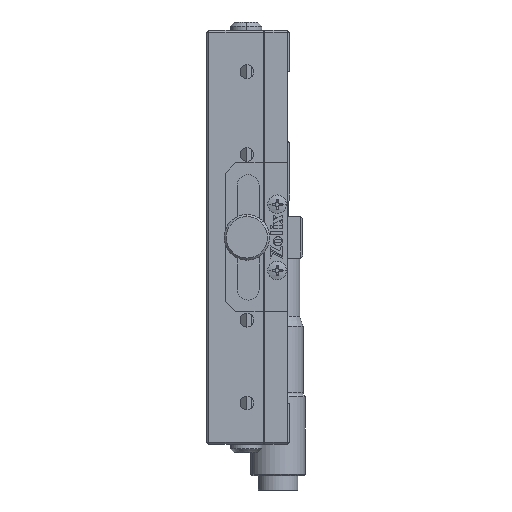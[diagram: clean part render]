
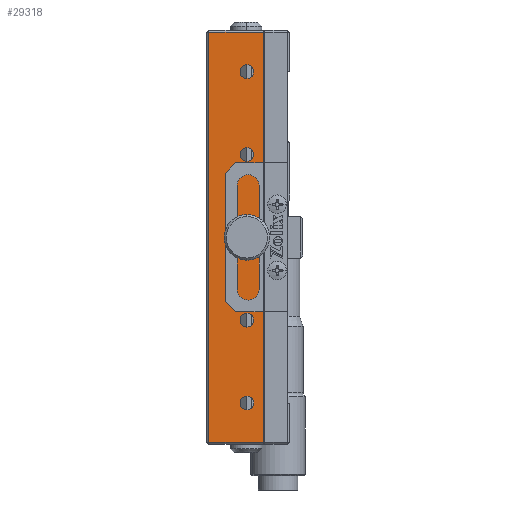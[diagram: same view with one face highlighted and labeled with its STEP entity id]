
A CAD part, left-side view. The second image highlights one B-rep face of the part: STEP entity #29318.
In plain terms, the highlighted planar face has unit normal (-1, 0, 0).
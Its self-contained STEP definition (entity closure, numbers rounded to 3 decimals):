
#177 = CARTESIAN_POINT ( 'NONE',  ( -52.563, -2.575, 94.15 ) ) ;
#365 = DIRECTION ( 'NONE',  ( -1., 0., 0. ) ) ;
#630 = VERTEX_POINT ( 'NONE', #2525 ) ;
#767 = ORIENTED_EDGE ( 'NONE', *, *, #21845, .F. ) ;
#941 = FACE_BOUND ( 'NONE', #3390, .T. ) ;
#952 = EDGE_LOOP ( 'NONE', ( #4012, #767 ) ) ;
#1269 = EDGE_CURVE ( 'NONE', #28478, #26473, #5017, .T. ) ;
#1315 = CARTESIAN_POINT ( 'NONE',  ( -52.563, -6.575, 62.5 ) ) ;
#1322 = ORIENTED_EDGE ( 'NONE', *, *, #7022, .F. ) ;
#1646 = CARTESIAN_POINT ( 'NONE',  ( -52.563, -2.575, 110.4 ) ) ;
#1694 = FACE_BOUND ( 'NONE', #22292, .T. ) ;
#1803 = EDGE_LOOP ( 'NONE', ( #1322, #6968 ) ) ;
#1805 = VERTEX_POINT ( 'NONE', #1646 ) ;
#1939 = AXIS2_PLACEMENT_3D ( 'NONE', #12030, #1977, #30700 ) ;
#1977 = DIRECTION ( 'NONE',  ( -1., 0., 0. ) ) ;
#2063 = CARTESIAN_POINT ( 'NONE',  ( -52.563, -2.575, 150.85 ) ) ;
#2207 = CARTESIAN_POINT ( 'NONE',  ( -52.563, -6.575, 62.5 ) ) ;
#2261 = VERTEX_POINT ( 'NONE', #24604 ) ;
#2367 = ORIENTED_EDGE ( 'NONE', *, *, #18878, .F. ) ;
#2525 = CARTESIAN_POINT ( 'NONE',  ( -52.563, -2.575, 70.85 ) ) ;
#2660 = CARTESIAN_POINT ( 'NONE',  ( -52.563, -2.575, 152.5 ) ) ;
#2992 = DIRECTION ( 'NONE',  ( 0., 0., 1. ) ) ;
#3003 = CARTESIAN_POINT ( 'NONE',  ( -52.563, -2.575, 72.5 ) ) ;
#3221 = CIRCLE ( 'NONE', #8793, 1.65 ) ;
#3352 = CIRCLE ( 'NONE', #22217, 2.1 ) ;
#3390 = EDGE_LOOP ( 'NONE', ( #6683, #27638 ) ) ;
#3587 = CIRCLE ( 'NONE', #7747, 1.65 ) ;
#4012 = ORIENTED_EDGE ( 'NONE', *, *, #23345, .F. ) ;
#4164 = CIRCLE ( 'NONE', #6880, 1.65 ) ;
#4175 = ORIENTED_EDGE ( 'NONE', *, *, #15323, .T. ) ;
#4199 = DIRECTION ( 'NONE',  ( 0., 0., 1. ) ) ;
#4742 = CIRCLE ( 'NONE', #1939, 1.65 ) ;
#5017 = LINE ( 'NONE', #2207, #23290 ) ;
#5526 = DIRECTION ( 'NONE',  ( -1., 0., 0. ) ) ;
#5597 = LINE ( 'NONE', #19995, #30190 ) ;
#5791 = DIRECTION ( 'NONE',  ( 0., 0., 1. ) ) ;
#5893 = DIRECTION ( 'NONE',  ( -1., 0., 0. ) ) ;
#6461 = LINE ( 'NONE', #25853, #22565 ) ;
#6591 = DIRECTION ( 'NONE',  ( 0., 0., 1. ) ) ;
#6606 = FACE_OUTER_BOUND ( 'NONE', #10633, .T. ) ;
#6683 = ORIENTED_EDGE ( 'NONE', *, *, #29424, .F. ) ;
#6872 = VERTEX_POINT ( 'NONE', #21157 ) ;
#6880 = AXIS2_PLACEMENT_3D ( 'NONE', #2660, #20105, #29768 ) ;
#6968 = ORIENTED_EDGE ( 'NONE', *, *, #28943, .F. ) ;
#7022 = EDGE_CURVE ( 'NONE', #20355, #7171, #7930, .T. ) ;
#7171 = VERTEX_POINT ( 'NONE', #27259 ) ;
#7284 = VERTEX_POINT ( 'NONE', #2063 ) ;
#7747 = AXIS2_PLACEMENT_3D ( 'NONE', #10676, #5893, #5791 ) ;
#7930 = CIRCLE ( 'NONE', #22177, 1.65 ) ;
#7941 = DIRECTION ( 'NONE',  ( -1., 0., 0. ) ) ;
#8487 = CIRCLE ( 'NONE', #25793, 2.1 ) ;
#8793 = AXIS2_PLACEMENT_3D ( 'NONE', #20872, #28220, #6591 ) ;
#9817 = CARTESIAN_POINT ( 'NONE',  ( -52.563, -2.575, 112.5 ) ) ;
#10133 = DIRECTION ( 'NONE',  ( 0., 0., 1. ) ) ;
#10462 = EDGE_CURVE ( 'NONE', #7284, #2261, #4164, .T. ) ;
#10633 = EDGE_LOOP ( 'NONE', ( #25285, #4175, #15898, #15337 ) ) ;
#10676 = CARTESIAN_POINT ( 'NONE',  ( -52.563, -2.575, 132.5 ) ) ;
#10855 = PLANE ( 'NONE',  #17969 ) ;
#11407 = DIRECTION ( 'NONE',  ( -1., 0., 0. ) ) ;
#12030 = CARTESIAN_POINT ( 'NONE',  ( -52.563, -2.575, 92.5 ) ) ;
#12778 = CARTESIAN_POINT ( 'NONE',  ( -52.563, -2.575, 132.5 ) ) ;
#13894 = AXIS2_PLACEMENT_3D ( 'NONE', #25664, #11407, #4199 ) ;
#14012 = EDGE_CURVE ( 'NONE', #25998, #16837, #3587, .T. ) ;
#14860 = CARTESIAN_POINT ( 'NONE',  ( -52.563, -2.575, 112.5 ) ) ;
#15242 = AXIS2_PLACEMENT_3D ( 'NONE', #3003, #7941, #19709 ) ;
#15323 = EDGE_CURVE ( 'NONE', #26473, #16382, #6461, .T. ) ;
#15337 = ORIENTED_EDGE ( 'NONE', *, *, #19910, .T. ) ;
#15366 = DIRECTION ( 'NONE',  ( 0., 0., 1. ) ) ;
#15433 = DIRECTION ( 'NONE',  ( -1., 0., 0. ) ) ;
#15842 = DIRECTION ( 'NONE',  ( 0., 0., 1. ) ) ;
#15898 = ORIENTED_EDGE ( 'NONE', *, *, #30437, .T. ) ;
#16382 = VERTEX_POINT ( 'NONE', #23400 ) ;
#16451 = CIRCLE ( 'NONE', #24628, 1.65 ) ;
#16521 = DIRECTION ( 'NONE',  ( 0., 0., 1. ) ) ;
#16837 = VERTEX_POINT ( 'NONE', #24320 ) ;
#17028 = FACE_BOUND ( 'NONE', #952, .T. ) ;
#17380 = DIRECTION ( 'NONE',  ( 0., -1., 0. ) ) ;
#17969 = AXIS2_PLACEMENT_3D ( 'NONE', #1315, #15433, #15842 ) ;
#18878 = EDGE_CURVE ( 'NONE', #16837, #25998, #16451, .T. ) ;
#19217 = CARTESIAN_POINT ( 'NONE',  ( -52.563, -2.575, 114.6 ) ) ;
#19377 = CARTESIAN_POINT ( 'NONE',  ( -52.563, 6.625, 62.5 ) ) ;
#19709 = DIRECTION ( 'NONE',  ( 0., 0., 1. ) ) ;
#19910 = EDGE_CURVE ( 'NONE', #29375, #28478, #5597, .T. ) ;
#19960 = LINE ( 'NONE', #19377, #21054 ) ;
#19995 = CARTESIAN_POINT ( 'NONE',  ( -52.563, -6.575, 63. ) ) ;
#20105 = DIRECTION ( 'NONE',  ( -1., 0., 0. ) ) ;
#20120 = CARTESIAN_POINT ( 'NONE',  ( -52.563, -2.575, 130.85 ) ) ;
#20291 = DIRECTION ( 'NONE',  ( -1., 0., 0. ) ) ;
#20355 = VERTEX_POINT ( 'NONE', #177 ) ;
#20872 = CARTESIAN_POINT ( 'NONE',  ( -52.563, -2.575, 152.5 ) ) ;
#21054 = VECTOR ( 'NONE', #26538, 1000. ) ;
#21157 = CARTESIAN_POINT ( 'NONE',  ( -52.563, -2.575, 74.15 ) ) ;
#21170 = EDGE_CURVE ( 'NONE', #630, #6872, #23769, .T. ) ;
#21277 = VERTEX_POINT ( 'NONE', #19217 ) ;
#21569 = DIRECTION ( 'NONE',  ( -1., 0., 0. ) ) ;
#21762 = CARTESIAN_POINT ( 'NONE',  ( -52.563, -6.575, 63. ) ) ;
#21780 = DIRECTION ( 'NONE',  ( 0., 0., 1. ) ) ;
#21845 = EDGE_CURVE ( 'NONE', #1805, #21277, #3352, .T. ) ;
#22177 = AXIS2_PLACEMENT_3D ( 'NONE', #26534, #21569, #21780 ) ;
#22217 = AXIS2_PLACEMENT_3D ( 'NONE', #9817, #365, #10133 ) ;
#22292 = EDGE_LOOP ( 'NONE', ( #28691, #22900 ) ) ;
#22535 = ORIENTED_EDGE ( 'NONE', *, *, #14012, .F. ) ;
#22565 = VECTOR ( 'NONE', #30671, 1000. ) ;
#22900 = ORIENTED_EDGE ( 'NONE', *, *, #21170, .F. ) ;
#23290 = VECTOR ( 'NONE', #16521, 1000. ) ;
#23318 = CIRCLE ( 'NONE', #15242, 1.65 ) ;
#23345 = EDGE_CURVE ( 'NONE', #21277, #1805, #8487, .T. ) ;
#23400 = CARTESIAN_POINT ( 'NONE',  ( -52.563, 6.625, 162. ) ) ;
#23769 = CIRCLE ( 'NONE', #13894, 1.65 ) ;
#24320 = CARTESIAN_POINT ( 'NONE',  ( -52.563, -2.575, 134.15 ) ) ;
#24604 = CARTESIAN_POINT ( 'NONE',  ( -52.563, -2.575, 154.15 ) ) ;
#24628 = AXIS2_PLACEMENT_3D ( 'NONE', #12778, #20291, #15366 ) ;
#24814 = EDGE_CURVE ( 'NONE', #6872, #630, #23318, .T. ) ;
#25225 = EDGE_LOOP ( 'NONE', ( #2367, #22535 ) ) ;
#25285 = ORIENTED_EDGE ( 'NONE', *, *, #1269, .T. ) ;
#25426 = CARTESIAN_POINT ( 'NONE',  ( -52.563, 6.625, 63. ) ) ;
#25664 = CARTESIAN_POINT ( 'NONE',  ( -52.563, -2.575, 72.5 ) ) ;
#25793 = AXIS2_PLACEMENT_3D ( 'NONE', #14860, #5526, #2992 ) ;
#25853 = CARTESIAN_POINT ( 'NONE',  ( -52.563, -6.575, 162. ) ) ;
#25998 = VERTEX_POINT ( 'NONE', #20120 ) ;
#26473 = VERTEX_POINT ( 'NONE', #27041 ) ;
#26534 = CARTESIAN_POINT ( 'NONE',  ( -52.563, -2.575, 92.5 ) ) ;
#26538 = DIRECTION ( 'NONE',  ( 0., 0., -1. ) ) ;
#26704 = FACE_BOUND ( 'NONE', #1803, .T. ) ;
#27041 = CARTESIAN_POINT ( 'NONE',  ( -52.563, -6.575, 162. ) ) ;
#27259 = CARTESIAN_POINT ( 'NONE',  ( -52.563, -2.575, 90.85 ) ) ;
#27638 = ORIENTED_EDGE ( 'NONE', *, *, #10462, .F. ) ;
#27830 = FACE_BOUND ( 'NONE', #25225, .T. ) ;
#28220 = DIRECTION ( 'NONE',  ( -1., 0., 0. ) ) ;
#28478 = VERTEX_POINT ( 'NONE', #21762 ) ;
#28691 = ORIENTED_EDGE ( 'NONE', *, *, #24814, .F. ) ;
#28943 = EDGE_CURVE ( 'NONE', #7171, #20355, #4742, .T. ) ;
#29318 = ADVANCED_FACE ( 'NONE', ( #6606, #17028, #26704, #1694, #941, #27830 ), #10855, .T. ) ;
#29375 = VERTEX_POINT ( 'NONE', #25426 ) ;
#29424 = EDGE_CURVE ( 'NONE', #2261, #7284, #3221, .T. ) ;
#29768 = DIRECTION ( 'NONE',  ( 0., 0., 1. ) ) ;
#30190 = VECTOR ( 'NONE', #17380, 1000. ) ;
#30437 = EDGE_CURVE ( 'NONE', #16382, #29375, #19960, .T. ) ;
#30671 = DIRECTION ( 'NONE',  ( 0., 1., 0. ) ) ;
#30700 = DIRECTION ( 'NONE',  ( 0., 0., 1. ) ) ;
